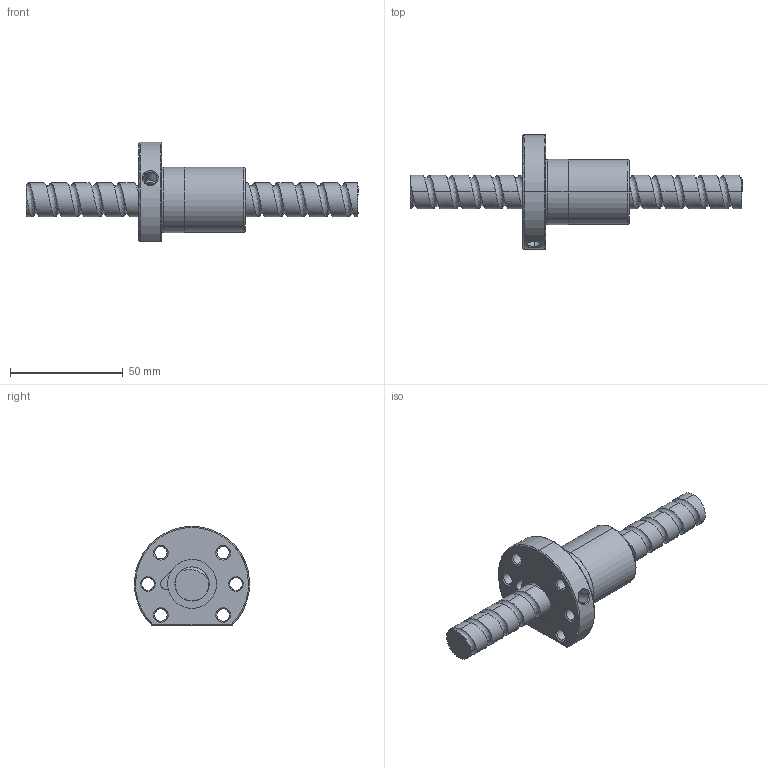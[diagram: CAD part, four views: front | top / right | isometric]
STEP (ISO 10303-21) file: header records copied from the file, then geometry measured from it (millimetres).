
FILE_DESCRIPTION (( 'STEP AP214' ), '1' );
FILE_NAME ('FSDC01510T3-B-B.STEP', '2010-06-25T11:25:00', ( 'XPAUTO' ), ( 'XPAUTO' ), 'SwSTEP 2.0', 'SolidWorks 2007', '' );
FILE_SCHEMA (( 'AUTOMOTIVE_DESIGN' ));
Length unit declared in the file: millimetre
Products named in the file (3): FSDC01510T3-B-B; FSDC01510T3-B-B.sldasm-Part-2_預設; FSDC01510T3-B-B.sldasm-Part-1_預設
Assembly tree (2 placements, depth 2):
  FSDC01510T3-B-B
    FSDC01510T3-B-B.sldasm-Part-1_預設
    FSDC01510T3-B-B.sldasm-Part-2_預設
Bounding box: 147 x 50.96 x 44 mm (x, y, z)
Volume: 56361.4 mm3; surface area: 19580.5 mm2
Topology: 2 solids, 2 shells, 123 faces, 310 edges, 195 vertices
Faces by surface type: cylinder 70, cone 24, plane 19, bspline 5, torus 5
Entity records: 24809 total; most frequent: CARTESIAN_POINT 21842, ORIENTED_EDGE 622, DIRECTION 577, EDGE_CURVE 311, AXIS2_PLACEMENT_3D 235, VERTEX_POINT 196, EDGE_LOOP 143, FACE_OUTER_BOUND 123
